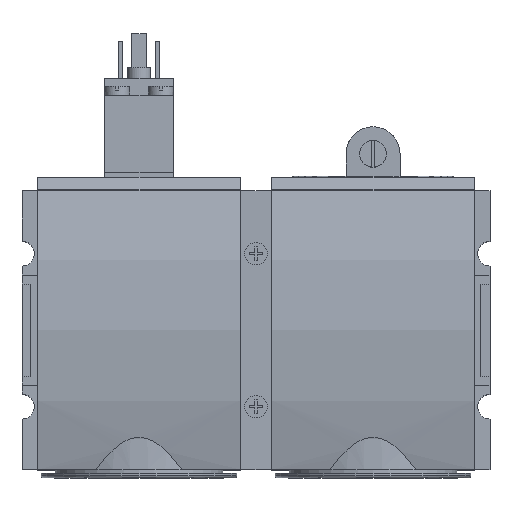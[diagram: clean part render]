
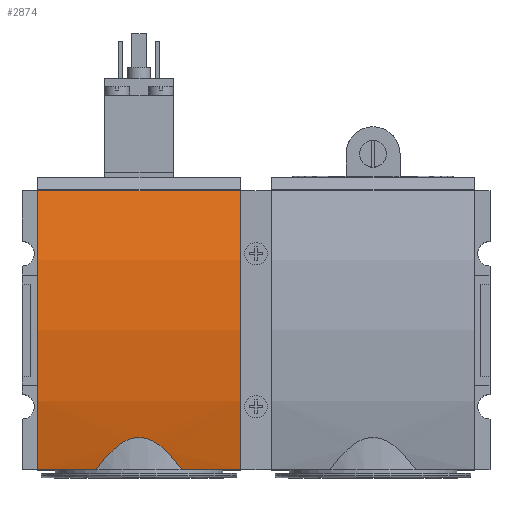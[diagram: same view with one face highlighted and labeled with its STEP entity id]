
A CAD part, top view. The second image highlights one B-rep face of the part: STEP entity #2874.
In plain terms, the highlighted cylindrical face has radius 115 mm (diameter 230 mm), a partial arc.
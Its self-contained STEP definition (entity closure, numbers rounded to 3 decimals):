
#54=CARTESIAN_POINT('',(-22.5,0.,-85.5));
#55=DIRECTION('',(1.,0.,0.));
#56=DIRECTION('',(0.,0.27,0.963));
#57=AXIS2_PLACEMENT_3D('',#54,#55,#56);
#224=CARTESIAN_POINT('',(22.5,0.,-85.5));
#225=DIRECTION('',(1.,0.,0.));
#226=DIRECTION('',(0.,0.27,0.963));
#227=AXIS2_PLACEMENT_3D('',#224,#225,#226);
#627=CARTESIAN_POINT('',(9.581,-31.,25.243));
#628=CARTESIAN_POINT('',(9.396,-30.749,25.313));
#629=CARTESIAN_POINT('',(9.02,-30.249,25.451));
#630=CARTESIAN_POINT('',(8.431,-29.501,25.653));
#631=CARTESIAN_POINT('',(7.824,-28.77,25.844));
#632=CARTESIAN_POINT('',(7.205,-28.065,26.024));
#633=CARTESIAN_POINT('',(6.575,-27.396,26.19));
#634=CARTESIAN_POINT('',(5.923,-26.754,26.345));
#635=CARTESIAN_POINT('',(5.257,-26.157,26.486));
#636=CARTESIAN_POINT('',(4.633,-25.656,26.602));
#637=CARTESIAN_POINT('',(4.077,-25.258,26.692));
#638=CARTESIAN_POINT('',(3.569,-24.934,26.765));
#639=CARTESIAN_POINT('',(3.089,-24.664,26.824));
#640=CARTESIAN_POINT('',(2.628,-24.44,26.873));
#641=CARTESIAN_POINT('',(2.187,-24.258,26.912));
#642=CARTESIAN_POINT('',(1.765,-24.114,26.943));
#643=CARTESIAN_POINT('',(1.358,-24.005,26.967));
#644=CARTESIAN_POINT('',(0.963,-23.925,26.984));
#645=CARTESIAN_POINT('',(0.576,-23.873,26.995));
#646=CARTESIAN_POINT('',(0.191,-23.847,27.));
#647=CARTESIAN_POINT('',(-0.191,-23.847,
27.));
#648=CARTESIAN_POINT('',(-0.576,-23.873,
26.995));
#649=CARTESIAN_POINT('',(-0.963,-23.925,
26.984));
#650=CARTESIAN_POINT('',(-1.358,-24.005,26.967));
#651=CARTESIAN_POINT('',(-1.765,-24.114,26.943));
#652=CARTESIAN_POINT('',(-2.187,-24.258,26.912));
#653=CARTESIAN_POINT('',(-2.628,-24.44,26.873));
#654=CARTESIAN_POINT('',(-3.089,-24.664,26.824));
#655=CARTESIAN_POINT('',(-3.569,-24.934,26.765));
#656=CARTESIAN_POINT('',(-4.077,-25.258,26.692));
#657=CARTESIAN_POINT('',(-4.633,-25.657,26.602));
#658=CARTESIAN_POINT('',(-5.257,-26.158,26.486));
#659=CARTESIAN_POINT('',(-5.923,-26.754,26.345));
#660=CARTESIAN_POINT('',(-6.575,-27.395,26.19));
#661=CARTESIAN_POINT('',(-7.205,-28.065,26.024));
#662=CARTESIAN_POINT('',(-7.825,-28.77,25.844));
#663=CARTESIAN_POINT('',(-8.431,-29.501,25.652));
#664=CARTESIAN_POINT('',(-9.02,-30.249,25.451));
#665=CARTESIAN_POINT('',(-9.396,-30.749,25.313));
#666=CARTESIAN_POINT('',(-9.581,-31.,25.243));
#668=DIRECTION('',(1.,0.,0.));
#669=VECTOR('',#668,45.);
#670=CARTESIAN_POINT('',(-22.5,31.,25.243));
#671=LINE('',#670,#669);
#681=DIRECTION('',(1.,0.,0.));
#682=VECTOR('',#681,12.919);
#683=CARTESIAN_POINT('',(-22.5,-31.,25.243));
#684=LINE('',#683,#682);
#690=DIRECTION('',(1.,0.,0.));
#691=VECTOR('',#690,12.919);
#692=CARTESIAN_POINT('',(9.581,-31.,25.243));
#693=LINE('',#692,#691);
#1709=CARTESIAN_POINT('',(-22.5,31.,25.243));
#1710=CARTESIAN_POINT('',(-22.5,-31.,25.243));
#1711=VERTEX_POINT('',#1709);
#1712=VERTEX_POINT('',#1710);
#1717=CARTESIAN_POINT('',(22.5,31.,25.243));
#1718=CARTESIAN_POINT('',(22.5,-31.,25.243));
#1719=VERTEX_POINT('',#1717);
#1720=VERTEX_POINT('',#1718);
#1837=VERTEX_POINT('',#627);
#1838=VERTEX_POINT('',#666);
#2858=CARTESIAN_POINT('',(-22.5,0.,-85.5));
#2859=DIRECTION('',(1.,0.,0.));
#2860=DIRECTION('',(0.,0.,-1.));
#2861=AXIS2_PLACEMENT_3D('',#2858,#2859,#2860);
#2862=CYLINDRICAL_SURFACE('',#2861,115.);
#2864=ORIENTED_EDGE('',*,*,#2863,.T.);
#2866=ORIENTED_EDGE('',*,*,#2865,.F.);
#2867=ORIENTED_EDGE('',*,*,#2212,.F.);
#2868=ORIENTED_EDGE('',*,*,#2814,.T.);
#2869=ORIENTED_EDGE('',*,*,#2382,.T.);
#2871=ORIENTED_EDGE('',*,*,#2870,.F.);
#2872=EDGE_LOOP('',(#2864,#2866,#2867,#2868,#2869,#2871));
#2873=FACE_OUTER_BOUND('',#2872,.F.);
#2874=ADVANCED_FACE('',(#2873),#2862,.T.);
#58=CIRCLE('',#57,115.);
#228=CIRCLE('',#227,115.);
#667=B_SPLINE_CURVE_WITH_KNOTS('',3,(#627,#628,#629,#630,#631,#632,#633,#634,
#635,#636,#637,#638,#639,#640,#641,#642,#643,#644,#645,#646,#647,#648,#649,#650,
#651,#652,#653,#654,#655,#656,#657,#658,#659,#660,#661,#662,#663,#664,#665,
#666),.UNSPECIFIED.,.F.,.F.,(4,1,1,1,1,1,1,1,1,1,1,1,1,1,1,1,1,1,1,1,1,1,1,1,1,
1,1,1,1,1,1,1,1,1,1,1,1,4),(0.,0.027,0.054,
0.081,0.108,0.135,0.162,
0.189,0.216,0.243,0.27,
0.297,0.324,0.351,0.378,
0.405,0.432,0.459,0.486,
0.514,0.541,0.568,0.595,
0.622,0.649,0.676,0.703,
0.73,0.757,0.784,0.811,
0.838,0.865,0.892,0.919,
0.946,0.973,1.),.UNSPECIFIED.);
#2212=EDGE_CURVE('',#1711,#1712,#58,.T.);
#2382=EDGE_CURVE('',#1719,#1720,#228,.T.);
#2814=EDGE_CURVE('',#1711,#1719,#671,.T.);
#2863=EDGE_CURVE('',#1837,#1838,#667,.T.);
#2865=EDGE_CURVE('',#1712,#1838,#684,.T.);
#2870=EDGE_CURVE('',#1837,#1720,#693,.T.);
